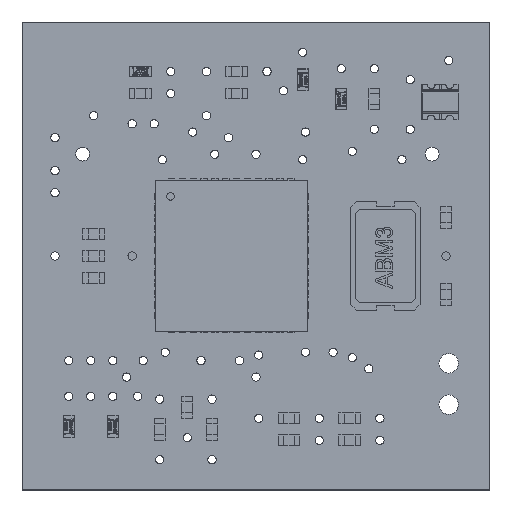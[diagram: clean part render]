
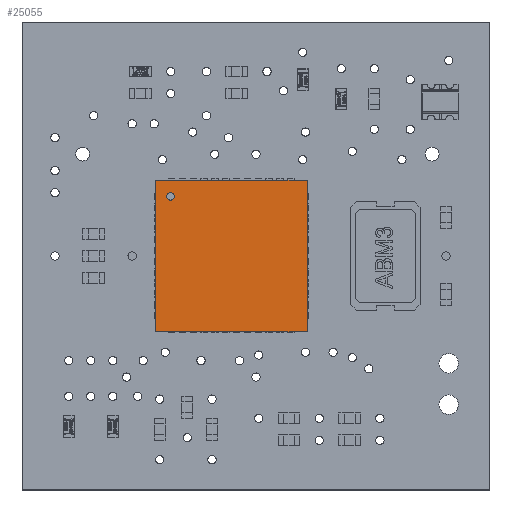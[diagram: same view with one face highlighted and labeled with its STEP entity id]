
A CAD part, top view. The second image highlights one B-rep face of the part: STEP entity #25055.
In plain terms, the highlighted planar face has unit normal (0, 0, 1).
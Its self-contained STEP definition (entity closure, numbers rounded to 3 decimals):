
#871=PLANE('',#26788);
#2171=FACE_OUTER_BOUND('',#3677,.T.);
#3677=EDGE_LOOP('',(#18689,#18690,#18691,#18692));
#5333=LINE('',#36788,#8347);
#5335=LINE('',#36792,#8349);
#5337=LINE('',#36796,#8351);
#5339=LINE('',#36799,#8353);
#8347=VECTOR('',#29495,7.);
#8349=VECTOR('',#29499,7.);
#8351=VECTOR('',#29503,7.);
#8353=VECTOR('',#29507,7.);
#11726=VERTEX_POINT('',#36785);
#11727=VERTEX_POINT('',#36787);
#11728=VERTEX_POINT('',#36791);
#11729=VERTEX_POINT('',#36795);
#14275=EDGE_CURVE('',#11727,#11726,#5333,.T.);
#14277=EDGE_CURVE('',#11728,#11727,#5335,.T.);
#14279=EDGE_CURVE('',#11729,#11728,#5337,.T.);
#14281=EDGE_CURVE('',#11726,#11729,#5339,.T.);
#18689=ORIENTED_EDGE('',*,*,#14279,.T.);
#18690=ORIENTED_EDGE('',*,*,#14277,.T.);
#18691=ORIENTED_EDGE('',*,*,#14275,.T.);
#18692=ORIENTED_EDGE('',*,*,#14281,.T.);
#25055=ADVANCED_FACE('',(#2171),#871,.F.);
#26788=AXIS2_PLACEMENT_3D('',#36800,#29508,#29509);
#29495=DIRECTION('',(-1.,0.,0.));
#29499=DIRECTION('',(0.,1.,0.));
#29503=DIRECTION('',(1.,0.,0.));
#29507=DIRECTION('',(0.,-1.,0.));
#29508=DIRECTION('center_axis',(0.,0.,-1.));
#29509=DIRECTION('ref_axis',(0.,1.,0.));
#36785=CARTESIAN_POINT('',(-3.5,3.5,0.9));
#36787=CARTESIAN_POINT('',(3.5,3.5,0.9));
#36788=CARTESIAN_POINT('',(3.5,3.5,0.9));
#36791=CARTESIAN_POINT('',(3.5,-3.5,0.9));
#36792=CARTESIAN_POINT('',(3.5,-3.5,0.9));
#36795=CARTESIAN_POINT('',(-3.5,-3.5,0.9));
#36796=CARTESIAN_POINT('',(-3.5,-3.5,0.9));
#36799=CARTESIAN_POINT('',(-3.5,3.5,0.9));
#36800=CARTESIAN_POINT('Origin',(-3.5,-3.5,0.9));
